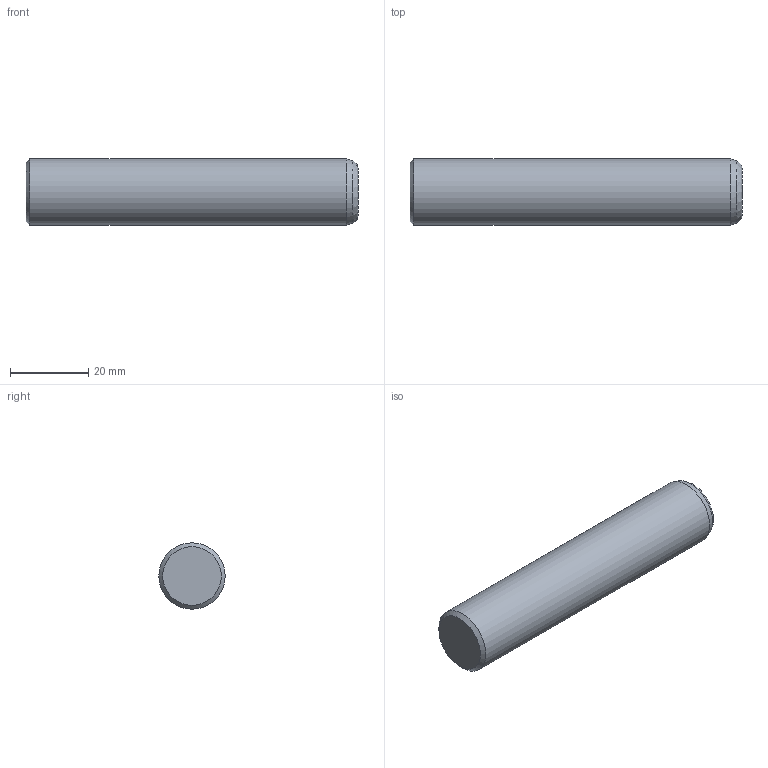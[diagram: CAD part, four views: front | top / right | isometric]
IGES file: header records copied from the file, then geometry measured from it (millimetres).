
Global section: file name: C41785.ipt; native system: Autodesk Inventor 2021; preprocessor: unknown; author: SM; date: 20211220.143002; units: millimetre
Bounding box: 85 x 17 x 17 mm (x, y, z)
Volume: 19173.1 mm3; surface area: 4890.3 mm2
Topology: 1 solids, 1 shells, 6 faces, 11 edges, 7 vertices
Faces by surface type: cone 2, plane 2, revolution 1, cylinder 1
Full cylindrical faces by diameter (mm): 17 x1
